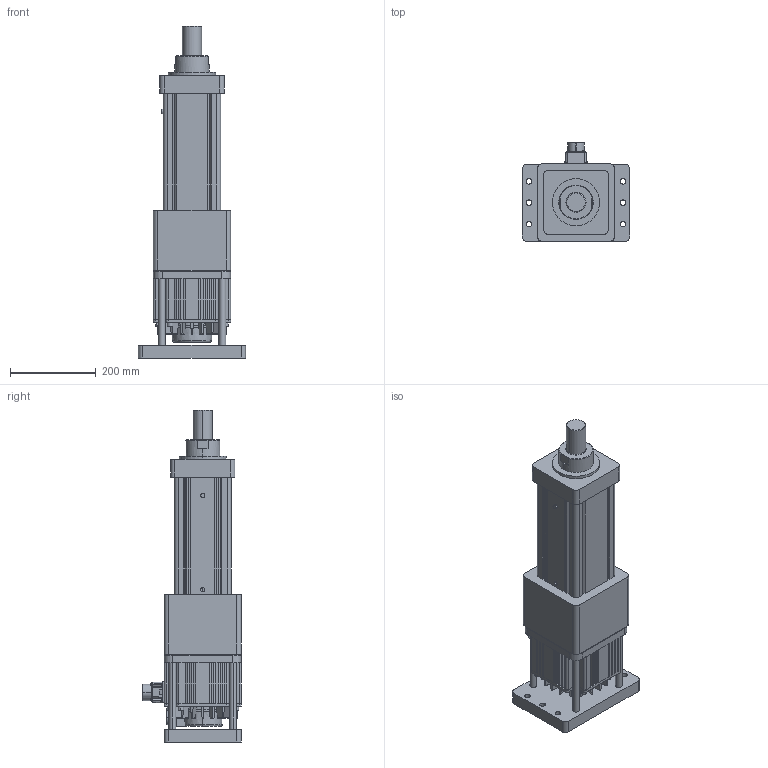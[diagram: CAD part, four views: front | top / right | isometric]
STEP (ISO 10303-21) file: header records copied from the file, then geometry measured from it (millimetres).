
FILE_DESCRIPTION (( 'STEP AP203' ), '1' );
FILE_NAME ('S5眻盄綴楊擘假蚾.STEP', '2024-05-27T05:33:40', ( '' ), ( '' ), 'SwSTEP 2.0', 'SolidWorks 2018', '' );
FILE_SCHEMA (( 'CONFIG_CONTROL_DESIGN' ));
Length unit declared in the file: millimetre
Products named in the file (3): ECMA-EX1820RS-180框號系列機種-2KW中慣量系列; S5眻盄綴楊擘假蚾; S5眻盄綴楷擘
Assembly tree (2 placements, depth 2):
  S5眻盄綴楊擘假蚾
    S5眻盄綴楷擘
    ECMA-EX1820RS-180框號系列機種-2KW中慣量系列
Bounding box: 250 x 230.02 x 775 mm (x, y, z)
Volume: 12348681.5 mm3; surface area: 1049003.7 mm2
Topology: 3 solids, 15 shells, 934 faces, 2237 edges, 1413 vertices
Faces by surface type: plane 487, cylinder 342, cone 62, bspline 27, torus 16
Entity records: 29333 total; most frequent: CARTESIAN_POINT 7227, DIRECTION 4552, ORIENTED_EDGE 4470, EDGE_CURVE 2235, AXIS2_PLACEMENT_3D 1598, VERTEX_POINT 1413, LINE 1356, VECTOR 1356
